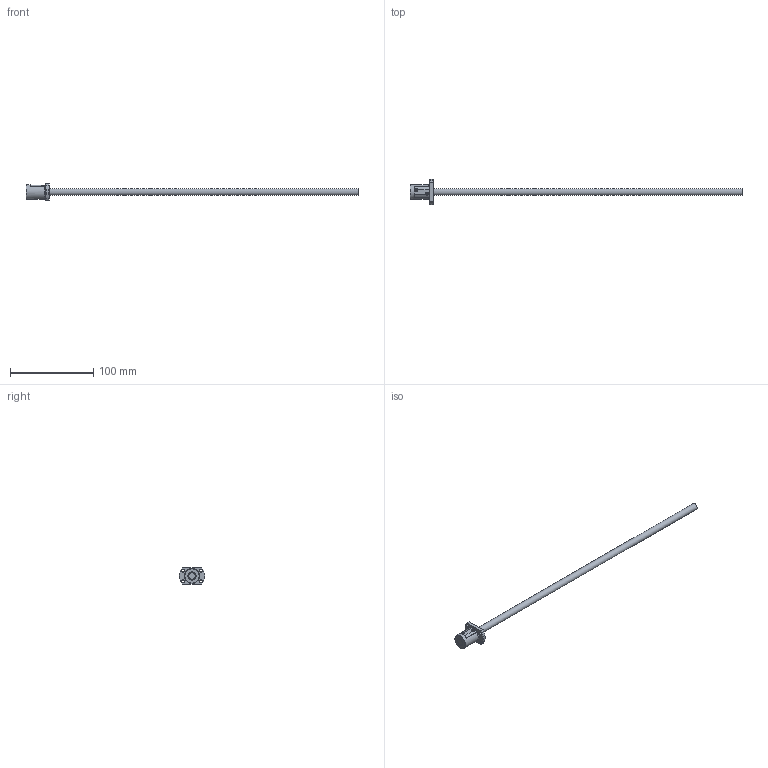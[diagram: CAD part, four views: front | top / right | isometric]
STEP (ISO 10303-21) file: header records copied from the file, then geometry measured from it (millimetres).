
FILE_DESCRIPTION( ( 'STEP AP203' ), '1' );
FILE_NAME( 'e:/temp/worker_91/temp/exporttempdir_4428_1994_79nYI/format_0/SR0805-400R400C10(0).stp', '2021-10-19T03:56:35', ( 'License CC BY-ND 4.0' ), ( 'CADENAS' ), ' ', 'PARTsolutions', ' ' );
FILE_SCHEMA( ( 'CONFIG_CONTROL_DESIGN' ) );
Length unit declared in the file: millimetre
Products named in the file (3): SR0805-400R400C10(0); _SR0805-400R400C10C10(0)_shaft; _SR0805-400R400C10C10_nut
Assembly tree (2 placements, depth 2):
  SR0805-400R400C10(0)
    _SR0805-400R400C10C10(0)_shaft
    _SR0805-400R400C10C10_nut
Bounding box: 400 x 30.91 x 20 mm (x, y, z)
Volume: 26720.1 mm3; surface area: 13743.2 mm2
Topology: 2 solids, 2 shells, 58 faces, 149 edges, 98 vertices
Faces by surface type: plane 25, cylinder 24, cone 9
Full cylindrical faces by diameter (mm): 1.07 x2, 3.4 x4, 8 x2, 10 x2, 17.7 x1, 18 x1
Entity records: 1800 total; most frequent: CARTESIAN_POINT 355, DIRECTION 286, ORIENTED_EDGE 250, EDGE_CURVE 125, AXIS2_PLACEMENT_3D 118, VERTEX_POINT 91, EDGE_LOOP 88, FACE_OUTER_BOUND 70
